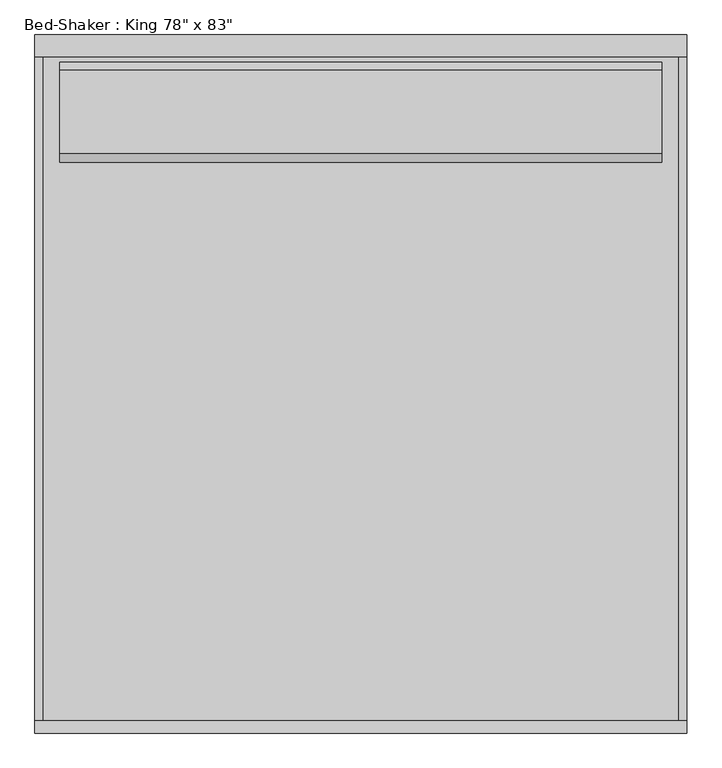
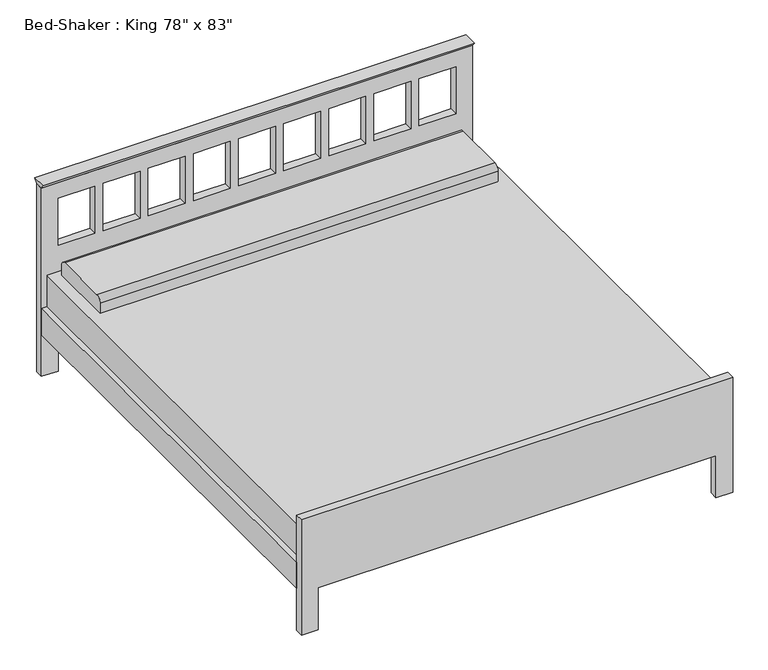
"""IFC4 building model written with IfcOpenShell, lengths in millimetres: furniture geometry."""

from ifc_helpers import new_model, si_unit, point, frame, frame_2d, origin, place, context, project, spatial, polyline, circle_curve, trimmed, segment, composite_curve, outline, extrude, source, transform, mapped, element, save


def furniture_29cd36cd(model_context):
    return source(origin(), model_context, "Body", "SweptSolid", [
        extrude(outline(polyline([(-38.1, 914.4), (-51.9545455, 933.45), (13.8545455, 933.45), (0.0, 914.4), (-38.1, 914.4)])), frame((-1009.4365546, 0.0, 0.0), z_axis=(1.0, 0.0, 0.0), x_axis=(0.0, 1.0, 0.0)), (0.0, 0.0, 1.0), 1981.2533613),
        extrude(outline(composite_curve([segment(polyline([(-373.2486637, 482.6), (-373.2486637, 533.4)]), True, "CONTINUOUS"), segment(trimmed(circle_curve(frame_2d((-347.8486637, 533.4)), 25.4), [point((-373.2486637, 533.4))], [point((-347.8486637, 558.8))], False, "CARTESIAN"), True, "CONTINUOUS"), segment(polyline([(-347.8486637, 558.8), (-93.8486637, 558.8)]), True, "CONTINUOUS"), segment(trimmed(circle_curve(frame_2d((-93.8486637, 533.4)), 25.4), [point((-93.8486637, 558.8))], [point((-68.4486637, 533.4))], False, "CARTESIAN"), True, "CONTINUOUS"), segment(polyline([(-68.4486637, 533.4), (-68.4486637, 482.6), (-373.2486637, 482.6)]), True, "CONTINUOUS")], self_intersect=False)), frame((-933.45, 0.0, 0.0), z_axis=(1.0, 0.0, 0.0), x_axis=(0.0, 1.0, 0.0)), (0.0, 0.0, 1.0), 1828.8),
        extrude(outline(polyline([(946.15, -38.1), (946.15, -2070.1), (-984.25, -2070.1), (-984.25, -38.1), (946.15, -38.1)])), frame((0.0, 0.0, 228.6), z_axis=(0.0, 0.0, 1.0), x_axis=(1.0, 0.0, 0.0)), (0.0, 0.0, 1.0), 254.0),
        extrude(outline(polyline([(946.15, -2070.1), (946.15, -38.1), (971.55, -38.1), (971.55, -2070.1), (946.15, -2070.1)])), frame((0.0, 0.0, 203.0994861), z_axis=(0.0, 0.0, 1.0), x_axis=(1.0, 0.0, 0.0)), (0.0, 0.0, 1.0), 127.0),
        extrude(outline(polyline([(-1009.65, -2070.1), (-1009.65, -38.1), (-984.25, -38.1), (-984.25, -2070.1), (-1009.65, -2070.1)])), frame((0.0, 0.0, 203.5755296), z_axis=(0.0, 0.0, 1.0), x_axis=(1.0, 0.0, 0.0)), (0.0, 0.0, 1.0), 127.0),
        extrude(outline(polyline([(0.0, -933.45), (203.2, -933.45), (203.2, 895.35), (0.0, 895.35), (0.0, 971.55), (558.8, 971.55), (558.8, -1009.65), (0.0, -1009.65), (0.0, -933.45)])), frame((0.0, -2108.2, 0.0), z_axis=(0.0, 1.0, 0.0), x_axis=(0.0, 0.0, 1.0)), (0.0, 0.0, 1.0), 38.1),
        extrude(outline(polyline([(914.4, 971.8168067), (914.4, -1009.4365546), (0.0, -1009.4365546), (0.0, -933.45), (203.2, -933.45), (203.2, 895.35), (0.0, 895.35), (0.0, 971.8168067), (914.4, 971.8168067)]), holes=[polyline([(838.2, -764.1166667), (609.6, -764.1166667), (609.6, -933.45), (838.2, -933.45), (838.2, -764.1166667)]), polyline([(838.2, -556.6833333), (609.6, -556.6833333), (609.6, -726.0166667), (838.2, -726.0166667), (838.2, -556.6833333)]), polyline([(838.2, -349.25), (609.6, -349.25), (609.6, -518.5833333), (838.2, -518.5833333), (838.2, -349.25)]), polyline([(838.2, -141.8166667), (609.6, -141.8166667), (609.6, -311.15), (838.2, -311.15), (838.2, -141.8166667)]), polyline([(838.2, 273.05), (609.6, 273.05), (609.6, 103.7166667), (838.2, 103.7166667), (838.2, 273.05)]), polyline([(838.2, 480.4833333), (609.6, 480.4833333), (609.6, 311.15), (838.2, 311.15), (838.2, 480.4833333)]), polyline([(838.2, 687.9166667), (609.6, 687.9166667), (609.6, 518.5833333), (838.2, 518.5833333), (838.2, 687.9166667)]), polyline([(838.2, 895.35), (609.6, 895.35), (609.6, 726.0166667), (838.2, 726.0166667), (838.2, 895.35)]), polyline([(838.2, 65.6166667), (609.6, 65.6166667), (609.6, -103.7166667), (838.2, -103.7166667), (838.2, 65.6166667)])]), frame((0.0, -38.1, 0.0), z_axis=(0.0, 1.0, 0.0), x_axis=(0.0, 0.0, 1.0)), (0.0, 0.0, 1.0), 38.1),
    ])


if __name__ == "__main__":
    model = new_model("IFC4")
    model_context = context("Model", 3, world=origin())
    ifc_project = project(units=[si_unit("LENGTHUNIT", "METRE", prefix="MILLI")], contexts=[model_context])
    site = spatial("IfcSite", under=ifc_project)
    building = spatial("IfcBuilding", under=site)
    placement = place(None, origin())
    furniture_shape = furniture_29cd36cd(model_context)
    element("IfcFurniture", 1, ObjectType="Bed-Shaker : King 78\" x 83\"", at=placement, inside=building, context=model_context, shape_type="MappedRepresentation", body=[
        mapped(furniture_shape, transform((0.0, 0.0, 0.0), x_axis=(1.0, 0.0, 0.0), y_axis=(0.0, 1.0, 0.0), z_axis=(0.0, 0.0, 1.0))),
    ])
    save(model, "model.ifc")
